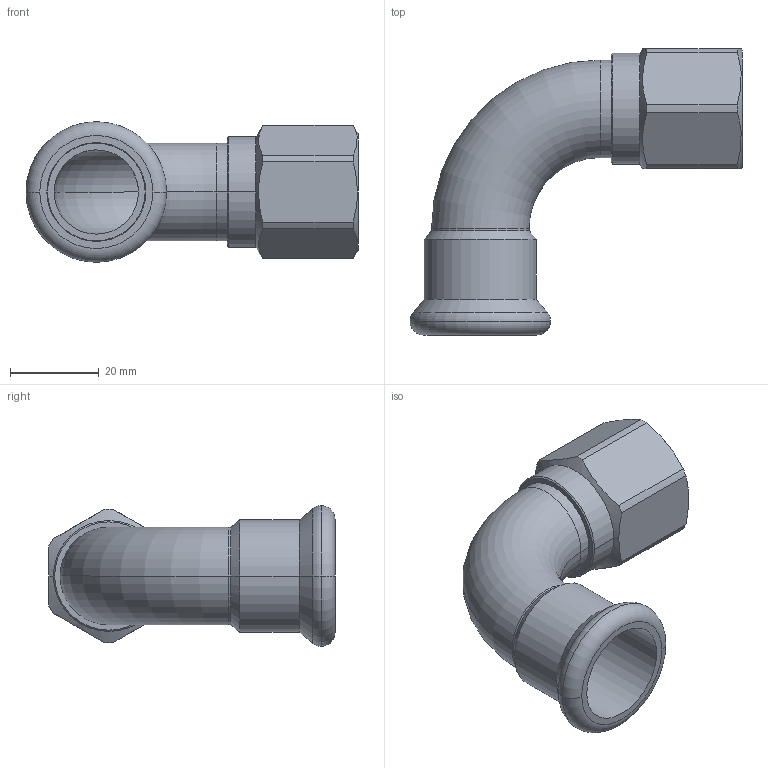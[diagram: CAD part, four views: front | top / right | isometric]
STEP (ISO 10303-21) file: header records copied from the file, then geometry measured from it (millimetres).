
FILE_DESCRIPTION(('CoCreate Modeling STEP Export'),'2;1');
FILE_NAME('C1438 22xRp1-2.stp','2014-11-12T16:35:34',(''),(''),'CoCreate Modeling STEP processor for AP214 (Solid Model)','CoCreate Modeling 17.00A 17-Jun-2010 (C) Parametric Technology GmbH','');
FILE_SCHEMA(('AUTOMOTIVE_DESIGN { 1 0 10303 214 1 1 1 1 }'));
Length unit declared in the file: millimetre
Products named in the file (2): C1438_22xRp1-2
Assembly tree (1 placements, depth 2):
  C1438_22xRp1-2
    C1438_22xRp1-2
Bounding box: 74.85 x 64.5 x 31.7 mm (x, y, z)
Volume: 18020.3 mm3; surface area: 14998.2 mm2
Topology: 1 solids, 1 shells, 58 faces, 134 edges, 82 vertices
Faces by surface type: cylinder 24, cone 14, plane 12, torus 8
Entity records: 2280 total; most frequent: CARTESIAN_POINT 1119, ORIENTED_EDGE 268, DIRECTION 186, EDGE_CURVE 134, VERTEX_POINT 82, AXIS2_PLACEMENT_3D 71, EDGE_LOOP 64, FACE_OUTER_BOUND 58
